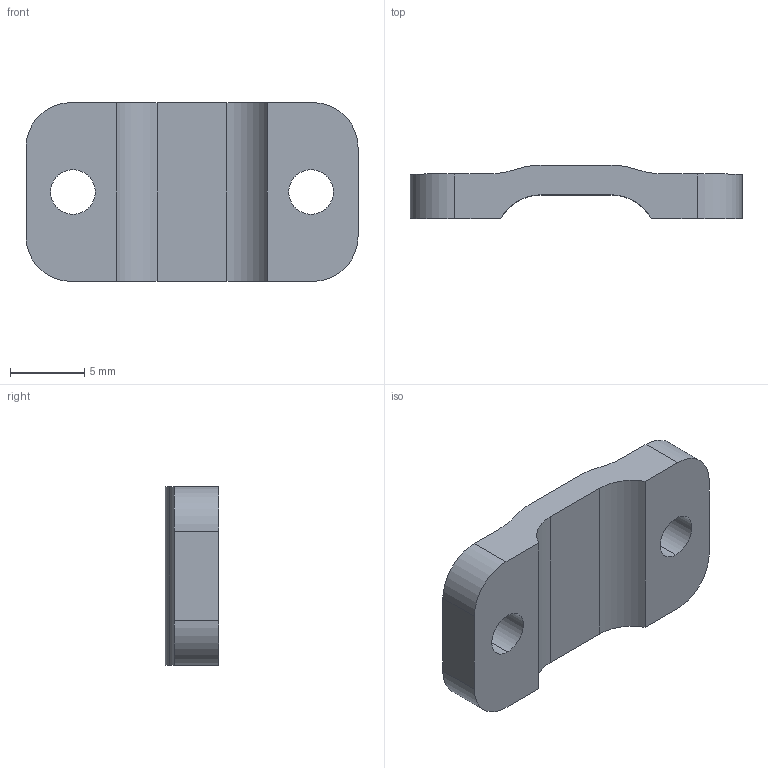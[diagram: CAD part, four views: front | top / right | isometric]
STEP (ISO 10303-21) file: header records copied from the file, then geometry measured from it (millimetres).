
FILE_DESCRIPTION (( 'STEP AP214' ), '1' );
FILE_NAME ('Pressure Sensor Strain Relief Clamp.STEP', '2023-03-29T19:46:51', ( '' ), ( '' ), 'SwSTEP 2.0', 'SolidWorks 2022', '' );
FILE_SCHEMA (( 'AUTOMOTIVE_DESIGN' ));
Length unit declared in the file: millimetre
Products named in the file (1): Pressure Sensor Strain Relief Clamp
Bounding box: 22.3 x 3.6 x 12 mm (x, y, z)
Volume: 631.9 mm3; surface area: 736.6 mm2
Topology: 1 solids, 1 shells, 24 faces, 66 edges, 44 vertices
Faces by surface type: cylinder 14, plane 10
Entity records: 820 total; most frequent: DIRECTION 144, CARTESIAN_POINT 135, ORIENTED_EDGE 132, EDGE_CURVE 66, AXIS2_PLACEMENT_3D 53, VERTEX_POINT 44, LINE 38, VECTOR 38
